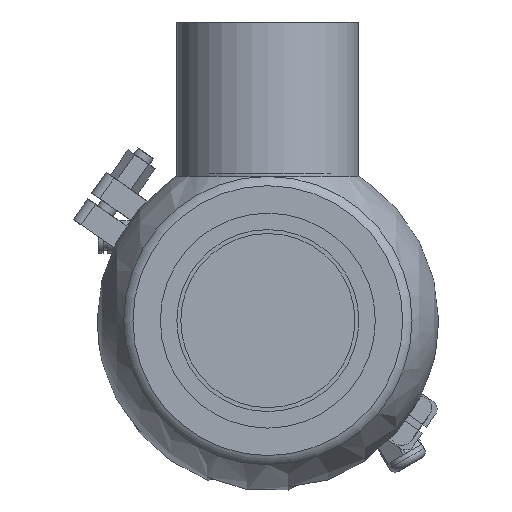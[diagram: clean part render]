
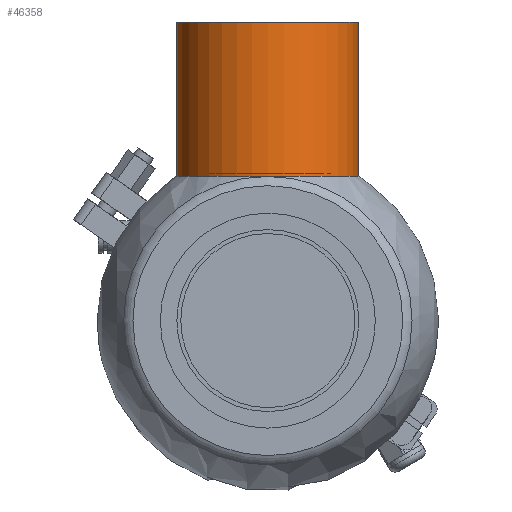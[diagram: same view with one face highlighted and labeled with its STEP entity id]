
A CAD part, front view. The second image highlights one B-rep face of the part: STEP entity #46358.
In plain terms, the highlighted cylindrical face has radius 38.1 mm (diameter 76.2 mm), a full revolution.
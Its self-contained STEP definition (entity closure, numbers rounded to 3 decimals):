
#3722 = CARTESIAN_POINT ( 'NONE',  ( 60.503, 0., 0. ) ) ;
#4548 = ORIENTED_EDGE ( 'NONE', *, *, #18976, .T. ) ;
#5748 = AXIS2_PLACEMENT_3D ( 'NONE', #12191, #36568, #31026 ) ;
#5767 = CIRCLE ( 'NONE', #35240, 38.1 ) ;
#7348 = EDGE_LOOP ( 'NONE', ( #4548 ) ) ;
#8935 = DIRECTION ( 'NONE',  ( 1., 0., 0. ) ) ;
#9110 = EDGE_CURVE ( 'NONE', #36689, #36689, #5767, .T. ) ;
#11776 = FACE_OUTER_BOUND ( 'NONE', #30199, .T. ) ;
#12191 = CARTESIAN_POINT ( 'NONE',  ( 125., 0., 0. ) ) ;
#16537 = CIRCLE ( 'NONE', #5748, 38.1 ) ;
#18023 = CARTESIAN_POINT ( 'NONE',  ( 125., 0., 38.1 ) ) ;
#18747 = CARTESIAN_POINT ( 'NONE',  ( 60.503, 0., 38.1 ) ) ;
#18976 = EDGE_CURVE ( 'NONE', #54674, #54674, #16537, .T. ) ;
#23184 = DIRECTION ( 'NONE',  ( 0., 0., 1. ) ) ;
#30199 = EDGE_LOOP ( 'NONE', ( #37955 ) ) ;
#30589 = FACE_OUTER_BOUND ( 'NONE', #7348, .T. ) ;
#31026 = DIRECTION ( 'NONE',  ( 0., 0., 1. ) ) ;
#35240 = AXIS2_PLACEMENT_3D ( 'NONE', #3722, #8935, #42244 ) ;
#36568 = DIRECTION ( 'NONE',  ( -1., 0., 0. ) ) ;
#36689 = VERTEX_POINT ( 'NONE', #18747 ) ;
#37955 = ORIENTED_EDGE ( 'NONE', *, *, #9110, .T. ) ;
#42244 = DIRECTION ( 'NONE',  ( 0., 0., 1. ) ) ;
#43254 = AXIS2_PLACEMENT_3D ( 'NONE', #51796, #46258, #23184 ) ;
#46258 = DIRECTION ( 'NONE',  ( -1., 0., 0. ) ) ;
#46358 = ADVANCED_FACE ( 'NONE', ( #11776, #30589 ), #49356, .T. ) ;
#49356 = CYLINDRICAL_SURFACE ( 'NONE', #43254, 38.1 ) ;
#51796 = CARTESIAN_POINT ( 'NONE',  ( 0., 0., 0. ) ) ;
#54674 = VERTEX_POINT ( 'NONE', #18023 ) ;
